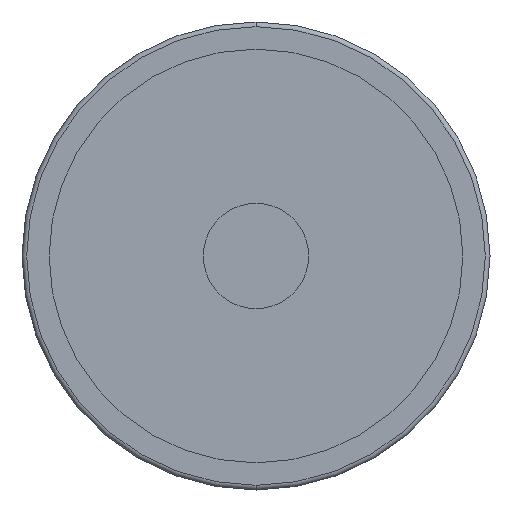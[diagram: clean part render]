
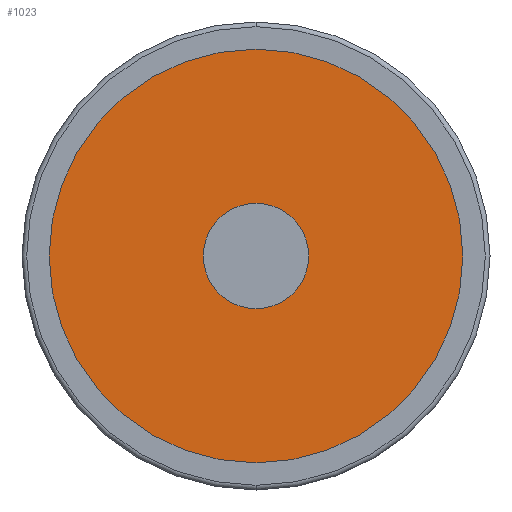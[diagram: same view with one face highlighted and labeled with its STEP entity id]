
A CAD part, front view. The second image highlights one B-rep face of the part: STEP entity #1023.
In plain terms, the highlighted planar face has unit normal (0, -1, 0).
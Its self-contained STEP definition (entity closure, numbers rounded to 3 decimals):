
#101 = DIRECTION ( 'NONE',  ( 0., -1., 0. ) ) ;
#201 = CIRCLE ( 'NONE', #1968, 44.3 ) ;
#241 = CARTESIAN_POINT ( 'NONE',  ( 0., 4.5, 0. ) ) ;
#710 = FACE_OUTER_BOUND ( 'NONE', #1530, .T. ) ;
#739 = CIRCLE ( 'NONE', #1251, 44.3 ) ;
#746 = DIRECTION ( 'NONE',  ( 1., 0., 0. ) ) ;
#751 = AXIS2_PLACEMENT_3D ( 'NONE', #1454, #2240, #3230 ) ;
#861 = EDGE_LOOP ( 'NONE', ( #1120, #1012 ) ) ;
#974 = DIRECTION ( 'NONE',  ( 0., -1., 0. ) ) ;
#989 = EDGE_CURVE ( 'NONE', #1660, #2982, #3159, .T. ) ;
#1011 = EDGE_CURVE ( 'NONE', #2321, #3089, #201, .T. ) ;
#1012 = ORIENTED_EDGE ( 'NONE', *, *, #989, .F. ) ;
#1023 = ADVANCED_FACE ( 'NONE', ( #710, #1474 ), #2474, .T. ) ;
#1120 = ORIENTED_EDGE ( 'NONE', *, *, #3156, .F. ) ;
#1230 = DIRECTION ( 'NONE',  ( 0., -1., 0. ) ) ;
#1233 = ORIENTED_EDGE ( 'NONE', *, *, #1011, .T. ) ;
#1251 = AXIS2_PLACEMENT_3D ( 'NONE', #2781, #101, #3031 ) ;
#1454 = CARTESIAN_POINT ( 'NONE',  ( 0., 4.5, 0. ) ) ;
#1474 = FACE_BOUND ( 'NONE', #861, .T. ) ;
#1530 = EDGE_LOOP ( 'NONE', ( #1233, #1711 ) ) ;
#1627 = CARTESIAN_POINT ( 'NONE',  ( 10.25, 4.5, 0. ) ) ;
#1660 = VERTEX_POINT ( 'NONE', #2432 ) ;
#1708 = AXIS2_PLACEMENT_3D ( 'NONE', #2980, #1230, #746 ) ;
#1711 = ORIENTED_EDGE ( 'NONE', *, *, #2440, .T. ) ;
#1730 = CARTESIAN_POINT ( 'NONE',  ( 0., 4.5, 0. ) ) ;
#1742 = CARTESIAN_POINT ( 'NONE',  ( -44.3, 4.5, 0. ) ) ;
#1968 = AXIS2_PLACEMENT_3D ( 'NONE', #241, #2721, #2374 ) ;
#2050 = CIRCLE ( 'NONE', #751, 10.25 ) ;
#2115 = DIRECTION ( 'NONE',  ( 1., 0., 0. ) ) ;
#2158 = CARTESIAN_POINT ( 'NONE',  ( 44.3, 4.5, 0. ) ) ;
#2240 = DIRECTION ( 'NONE',  ( 0., -1., 0. ) ) ;
#2321 = VERTEX_POINT ( 'NONE', #1742 ) ;
#2374 = DIRECTION ( 'NONE',  ( 1., 0., 0. ) ) ;
#2432 = CARTESIAN_POINT ( 'NONE',  ( -10.25, 4.5, 0. ) ) ;
#2440 = EDGE_CURVE ( 'NONE', #3089, #2321, #739, .T. ) ;
#2474 = PLANE ( 'NONE',  #1708 ) ;
#2721 = DIRECTION ( 'NONE',  ( 0., -1., 0. ) ) ;
#2781 = CARTESIAN_POINT ( 'NONE',  ( 0., 4.5, 0. ) ) ;
#2846 = AXIS2_PLACEMENT_3D ( 'NONE', #1730, #974, #2115 ) ;
#2980 = CARTESIAN_POINT ( 'NONE',  ( -44.3, 4.5, 0. ) ) ;
#2982 = VERTEX_POINT ( 'NONE', #1627 ) ;
#3031 = DIRECTION ( 'NONE',  ( 1., 0., 0. ) ) ;
#3089 = VERTEX_POINT ( 'NONE', #2158 ) ;
#3156 = EDGE_CURVE ( 'NONE', #2982, #1660, #2050, .T. ) ;
#3159 = CIRCLE ( 'NONE', #2846, 10.25 ) ;
#3230 = DIRECTION ( 'NONE',  ( 1., 0., 0. ) ) ;
